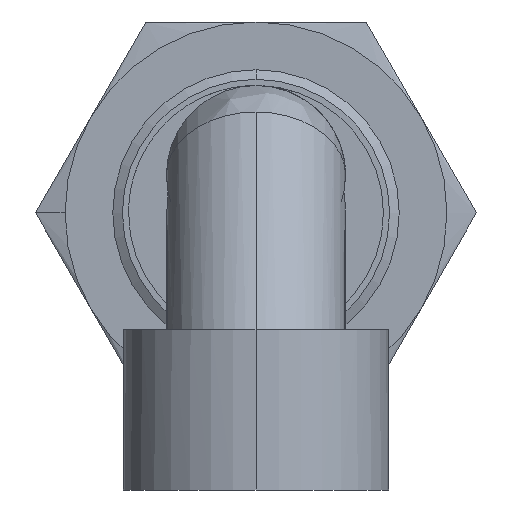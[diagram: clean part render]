
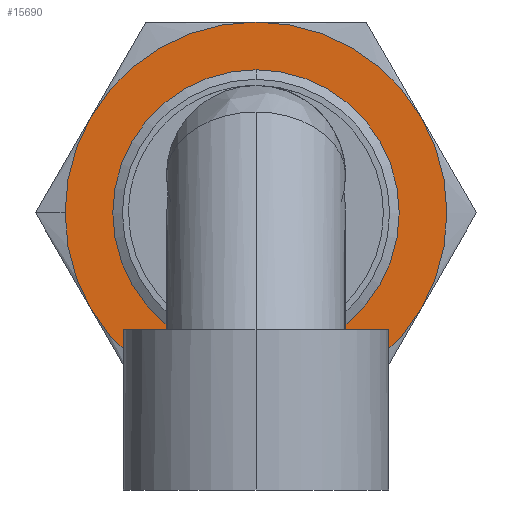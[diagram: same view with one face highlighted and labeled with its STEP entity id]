
A CAD part, left-side view. The second image highlights one B-rep face of the part: STEP entity #15690.
In plain terms, the highlighted planar face has unit normal (-1, 0, 0).
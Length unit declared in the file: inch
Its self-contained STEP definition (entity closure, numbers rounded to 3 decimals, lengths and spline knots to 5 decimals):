
#680 = EDGE_CURVE ( 'NONE', #15735, #12612, #16234, .T. ) ;
#17287 = EDGE_CURVE ( 'NONE', #16249, #15735, #12051, .T. ) ;
#929 = CARTESIAN_POINT ( 'NONE',  ( 0.98432, -0.40876, 0.236 ) ) ;
#17318 = VERTEX_POINT ( 'NONE', #12063 ) ;
#1145 = CIRCLE ( 'NONE', #1146, 0.472 ) ;
#1146 = AXIS2_PLACEMENT_3D ( 'NONE', #1147, #1148, #1149 ) ;
#1147 = CARTESIAN_POINT ( 'NONE',  ( 0.98432, 0., 0. ) ) ;
#1148 = DIRECTION ( 'NONE',  ( -1., 0., 0. ) ) ;
#1149 = DIRECTION ( 'NONE',  ( 0., 0., -1. ) ) ;
#17790 = CIRCLE ( 'NONE', #17791, 0.472 ) ;
#17791 = AXIS2_PLACEMENT_3D ( 'NONE', #17792, #17793, #17794 ) ;
#17792 = CARTESIAN_POINT ( 'NONE',  ( 0.98432, 0., 0. ) ) ;
#17793 = DIRECTION ( 'NONE',  ( -1., 0., 0. ) ) ;
#17794 = DIRECTION ( 'NONE',  ( 0., 1., 0. ) ) ;
#1944 = ORIENTED_EDGE ( 'NONE', *, *, #7984, .T. ) ;
#1950 = CARTESIAN_POINT ( 'NONE',  ( 0.98432, 0., -0.3305 ) ) ;
#2544 = ORIENTED_EDGE ( 'NONE', *, *, #680, .T. ) ;
#2977 = CARTESIAN_POINT ( 'NONE',  ( 0.98432, 0., 0.472 ) ) ;
#3058 = EDGE_CURVE ( 'NONE', #17318, #16249, #17790, .T. ) ;
#3098 = ORIENTED_EDGE ( 'NONE', *, *, #17287, .T. ) ;
#3212 = CIRCLE ( 'NONE', #3213, 0.472 ) ;
#3213 = AXIS2_PLACEMENT_3D ( 'NONE', #3214, #3215, #3216 ) ;
#3214 = CARTESIAN_POINT ( 'NONE',  ( 0.98432, 0., 0. ) ) ;
#3215 = DIRECTION ( 'NONE',  ( -1., 0., 0. ) ) ;
#3216 = DIRECTION ( 'NONE',  ( 0., 0., -1. ) ) ;
#4587 = VERTEX_POINT ( 'NONE', #929 ) ;
#4642 = CIRCLE ( 'NONE', #4643, 0.3305 ) ;
#4643 = AXIS2_PLACEMENT_3D ( 'NONE', #4644, #4645, #4646 ) ;
#4644 = CARTESIAN_POINT ( 'NONE',  ( 0.98432, 0., 0. ) ) ;
#4645 = DIRECTION ( 'NONE',  ( 1., 0., 0. ) ) ;
#4646 = DIRECTION ( 'NONE',  ( 0., 0., -1. ) ) ;
#4978 = EDGE_CURVE ( 'NONE', #15161, #4587, #1145, .T. ) ;
#5902 = CARTESIAN_POINT ( 'NONE',  ( 0.98432, 0., 0.3305 ) ) ;
#6139 = VERTEX_POINT ( 'NONE', #1950 ) ;
#6611 = CARTESIAN_POINT ( 'NONE',  ( 0.98432, 0., -0.472 ) ) ;
#6667 = CIRCLE ( 'NONE', #6668, 0.3305 ) ;
#6668 = AXIS2_PLACEMENT_3D ( 'NONE', #6669, #6670, #6671 ) ;
#6669 = CARTESIAN_POINT ( 'NONE',  ( 0.98432, 0., 0. ) ) ;
#6670 = DIRECTION ( 'NONE',  ( 1., 0., 0. ) ) ;
#6671 = DIRECTION ( 'NONE',  ( 0., 0., -1. ) ) ;
#6975 = CIRCLE ( 'NONE', #6976, 0.472 ) ;
#6976 = AXIS2_PLACEMENT_3D ( 'NONE', #6977, #6978, #6979 ) ;
#6977 = CARTESIAN_POINT ( 'NONE',  ( 0.98432, 0., 0. ) ) ;
#6978 = DIRECTION ( 'NONE',  ( -1., 0., 0. ) ) ;
#6979 = DIRECTION ( 'NONE',  ( 0., 0., -1. ) ) ;
#7670 = VERTEX_POINT ( 'NONE', #2977 ) ;
#7984 = EDGE_CURVE ( 'NONE', #12612, #15161, #3212, .T. ) ;
#9419 = CIRCLE ( 'NONE', #9420, 0.472 ) ;
#9420 = AXIS2_PLACEMENT_3D ( 'NONE', #9421, #9422, #9423 ) ;
#9421 = CARTESIAN_POINT ( 'NONE',  ( 0.98432, 0., 0. ) ) ;
#9422 = DIRECTION ( 'NONE',  ( -1., 0., 0. ) ) ;
#9423 = DIRECTION ( 'NONE',  ( 0., 1., 0. ) ) ;
#9475 = CARTESIAN_POINT ( 'NONE',  ( 0.98432, -0.40876, -0.236 ) ) ;
#9903 = EDGE_CURVE ( 'NONE', #6139, #11698, #4642, .T. ) ;
#10653 = FACE_BOUND ( 'NONE', #15610, .T. ) ;
#10654 = FACE_OUTER_BOUND ( 'NONE', #15215, .T. ) ;
#10655 = PLANE ( 'NONE',  #10656 ) ;
#10656 = AXIS2_PLACEMENT_3D ( 'NONE', #10657, #10658, #10659 ) ;
#10657 = CARTESIAN_POINT ( 'NONE',  ( 0.98432, 0., 0. ) ) ;
#10658 = DIRECTION ( 'NONE',  ( -1., 0., 0. ) ) ;
#10659 = DIRECTION ( 'NONE',  ( 0., -1., 0. ) ) ;
#10828 = CARTESIAN_POINT ( 'NONE',  ( 0.98432, 0.40876, -0.236 ) ) ;
#11475 = CARTESIAN_POINT ( 'NONE',  ( 0.98432, 0.472, 0. ) ) ;
#11698 = VERTEX_POINT ( 'NONE', #5902 ) ;
#12051 = CIRCLE ( 'NONE', #12052, 0.472 ) ;
#12052 = AXIS2_PLACEMENT_3D ( 'NONE', #12053, #12054, #12055 ) ;
#12053 = CARTESIAN_POINT ( 'NONE',  ( 0.98432, 0., 0. ) ) ;
#12054 = DIRECTION ( 'NONE',  ( -1., 0., 0. ) ) ;
#12055 = DIRECTION ( 'NONE',  ( 0., 1., 0. ) ) ;
#12063 = CARTESIAN_POINT ( 'NONE',  ( 0.98432, 0.40876, 0.236 ) ) ;
#12612 = VERTEX_POINT ( 'NONE', #6611 ) ;
#12657 = EDGE_CURVE ( 'NONE', #11698, #6139, #6667, .T. ) ;
#13098 = EDGE_CURVE ( 'NONE', #4587, #7670, #6975, .T. ) ;
#14537 = ORIENTED_EDGE ( 'NONE', *, *, #3058, .T. ) ;
#14748 = ORIENTED_EDGE ( 'NONE', *, *, #15124, .T. ) ;
#14917 = ORIENTED_EDGE ( 'NONE', *, *, #13098, .T. ) ;
#15066 = ORIENTED_EDGE ( 'NONE', *, *, #4978, .T. ) ;
#15124 = EDGE_CURVE ( 'NONE', #7670, #17318, #9419, .T. ) ;
#15161 = VERTEX_POINT ( 'NONE', #9475 ) ;
#15215 = EDGE_LOOP ( 'NONE', ( #15066, #14917, #14748, #14537, #3098, #2544, #1944 ) ) ;
#15305 = ORIENTED_EDGE ( 'NONE', *, *, #12657, .T. ) ;
#15454 = ORIENTED_EDGE ( 'NONE', *, *, #9903, .T. ) ;
#15610 = EDGE_LOOP ( 'NONE', ( #15454, #15305 ) ) ;
#15690 = ADVANCED_FACE ( 'NONE', ( #10653, #10654 ), #10655, .T. ) ;
#15735 = VERTEX_POINT ( 'NONE', #10828 ) ;
#16234 = CIRCLE ( 'NONE', #16235, 0.472 ) ;
#16235 = AXIS2_PLACEMENT_3D ( 'NONE', #16236, #16237, #16238 ) ;
#16236 = CARTESIAN_POINT ( 'NONE',  ( 0.98432, 0., 0. ) ) ;
#16237 = DIRECTION ( 'NONE',  ( -1., 0., 0. ) ) ;
#16238 = DIRECTION ( 'NONE',  ( 0., 1., 0. ) ) ;
#16249 = VERTEX_POINT ( 'NONE', #11475 ) ;
